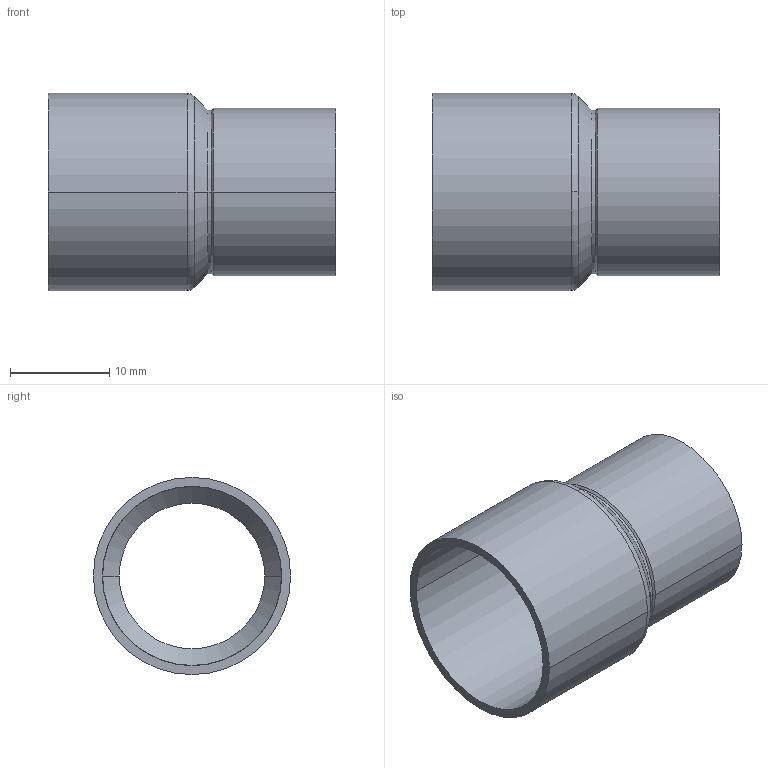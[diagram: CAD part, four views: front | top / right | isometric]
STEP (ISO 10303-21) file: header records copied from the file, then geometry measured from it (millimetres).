
FILE_DESCRIPTION((''),'2;1');
FILE_NAME('G:\Technics\CAD\Bauteile\Serie 15240\152401815.stp','2005-10-21T12:51:06',('boden'),(''),'Autodesk Inventor 8','Autodesk Inventor 8','');
FILE_SCHEMA(('AUTOMOTIVE_DESIGN { 1 0 10303 214 1 1 1 1 }'));
Length unit declared in the file: millimetre
Products named in the file (1): 152401815
Bounding box: 29 x 19.91 x 19.91 mm (x, y, z)
Volume: 1475.6 mm3; surface area: 3378.1 mm2
Topology: 1 solids, 1 shells, 26 faces, 60 edges, 36 vertices
Faces by surface type: cylinder 12, cone 8, torus 2, bspline 2, plane 2
Entity records: 855 total; most frequent: CARTESIAN_POINT 211, DIRECTION 150, ORIENTED_EDGE 120, AXIS2_PLACEMENT_3D 65, EDGE_CURVE 60, CIRCLE 40, VERTEX_POINT 36, EDGE_LOOP 28
